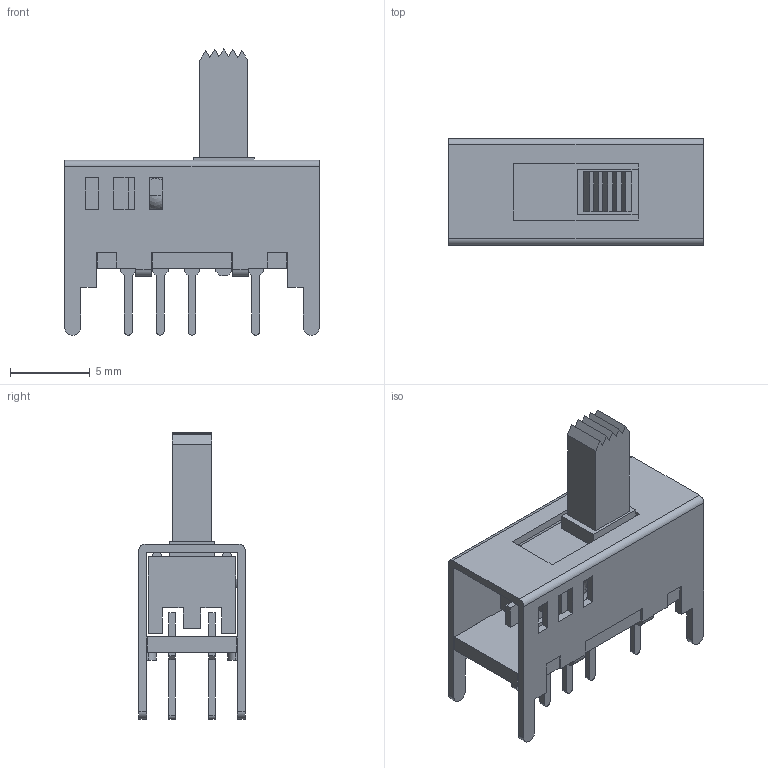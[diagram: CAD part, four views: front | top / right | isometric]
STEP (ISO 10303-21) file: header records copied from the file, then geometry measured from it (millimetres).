
FILE_DESCRIPTION((''),'2;1');
FILE_NAME('MFP223P_ASM','2017-11-29T',('Administrator'),(''),'PRO/ENGINEER BY PARAMETRIC TECHNOLOGY CORPORATION, 2009400','PRO/ENGINEER BY PARAMETRIC TECHNOLOGY CORPORATION, 2009400','');
FILE_SCHEMA(('CONFIG_CONTROL_DESIGN'));
Length unit declared in the file: millimetre
Products named in the file (1): MFP223P_ASM
Bounding box: 16 x 6.7 x 18 mm (x, y, z)
Volume: 504.4 mm3; surface area: 1544.5 mm2
Topology: 1 solids, 1 shells, 304 faces, 876 edges, 575 vertices
Faces by surface type: plane 274, cylinder 28, sphere 2
Entity records: 9868 total; most frequent: CARTESIAN_POINT 1751, ORIENTED_EDGE 1744, DIRECTION 1546, EDGE_CURVE 872, VECTOR 806, LINE 806, VERTEX_POINT 575, AXIS2_PLACEMENT_3D 370
